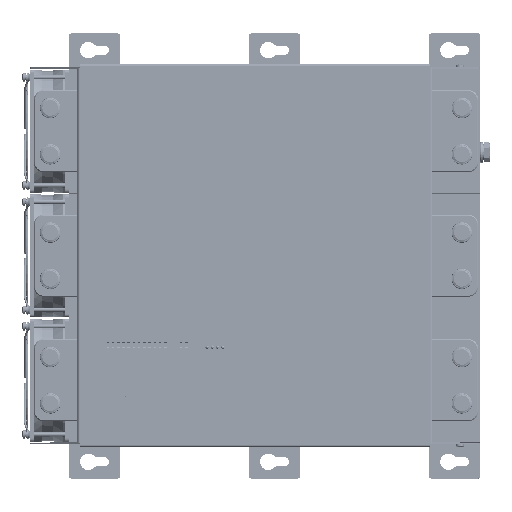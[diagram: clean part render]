
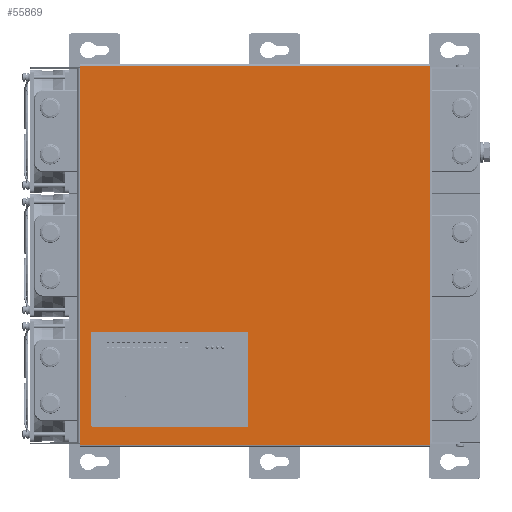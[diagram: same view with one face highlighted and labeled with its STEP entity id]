
A CAD part, top view. The second image highlights one B-rep face of the part: STEP entity #55869.
In plain terms, the highlighted planar face has unit normal (0, 0, 1) as drawn and (0, 1, 0) by its records, which use the part's own axes.
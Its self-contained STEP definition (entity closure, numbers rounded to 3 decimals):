
#55869=ADVANCED_FACE('',(#125734,#125736),#125738,.F.);
#125734=FACE_BOUND('',#125735,.T.);
#125735=EDGE_LOOP('',(#178931,#178932,#178933,#178934,#178935,#178936,#178937,#178938));
#125736=FACE_BOUND('',#125737,.T.);
#125737=EDGE_LOOP('',(#178939,#178940,#178941,#178942,#178943,#178944,#178945,#178946));
#125738=PLANE('',#125739);
#125739=AXIS2_PLACEMENT_3D('',#125740,#125741,#125742);
#125740=CARTESIAN_POINT('',(-35.5,192.5,154.));
#125741=DIRECTION('',(0.,-1.,0.));
#125742=DIRECTION('',(1.,0.,0.));
#178931=ORIENTED_EDGE('',*,*,#207038,.T.);
#178932=ORIENTED_EDGE('',*,*,#207039,.T.);
#178933=ORIENTED_EDGE('',*,*,#207040,.T.);
#178934=ORIENTED_EDGE('',*,*,#207041,.T.);
#178935=ORIENTED_EDGE('',*,*,#207042,.T.);
#178936=ORIENTED_EDGE('',*,*,#207043,.T.);
#178937=ORIENTED_EDGE('',*,*,#207044,.T.);
#178938=ORIENTED_EDGE('',*,*,#207045,.T.);
#178939=ORIENTED_EDGE('',*,*,#202251,.T.);
#178940=ORIENTED_EDGE('',*,*,#202266,.T.);
#178941=ORIENTED_EDGE('',*,*,#202264,.T.);
#178942=ORIENTED_EDGE('',*,*,#202262,.T.);
#178943=ORIENTED_EDGE('',*,*,#202260,.T.);
#178944=ORIENTED_EDGE('',*,*,#202258,.T.);
#178945=ORIENTED_EDGE('',*,*,#202256,.T.);
#178946=ORIENTED_EDGE('',*,*,#202254,.T.);
#202251=EDGE_CURVE('',#233352,#233353,#233354,.F.);
#202254=EDGE_CURVE('',#233357,#233352,#233358,.T.);
#202256=EDGE_CURVE('',#233360,#233357,#233361,.T.);
#202258=EDGE_CURVE('',#233363,#233360,#233364,.T.);
#202260=EDGE_CURVE('',#233366,#233363,#233367,.T.);
#202262=EDGE_CURVE('',#233369,#233366,#233370,.T.);
#202264=EDGE_CURVE('',#233372,#233369,#233373,.T.);
#202266=EDGE_CURVE('',#233353,#233372,#233375,.T.);
#207038=EDGE_CURVE('',#240517,#240518,#240519,.T.);
#207039=EDGE_CURVE('',#240518,#240520,#240521,.T.);
#207040=EDGE_CURVE('',#240520,#240522,#240523,.T.);
#207041=EDGE_CURVE('',#240522,#240524,#240525,.T.);
#207042=EDGE_CURVE('',#240524,#240526,#240527,.T.);
#207043=EDGE_CURVE('',#240526,#240528,#240529,.T.);
#207044=EDGE_CURVE('',#240528,#240530,#240531,.T.);
#207045=EDGE_CURVE('',#240530,#240517,#240532,.T.);
#233352=VERTEX_POINT('',#350372);
#233353=VERTEX_POINT('',#350373);
#233354=CIRCLE('',#350374,3.);
#233357=VERTEX_POINT('',#350384);
#233358=LINE('',#350385,#350386);
#233360=VERTEX_POINT('',#350391);
#233361=CIRCLE('',#350392,1.5);
#233363=VERTEX_POINT('',#350399);
#233364=LINE('',#350400,#350401);
#233366=VERTEX_POINT('',#350406);
#233367=CIRCLE('',#350407,1.5);
#233369=VERTEX_POINT('',#350414);
#233370=LINE('',#350415,#350416);
#233372=VERTEX_POINT('',#350421);
#233373=CIRCLE('',#350422,3.);
#233375=LINE('',#350429,#350430);
#240517=VERTEX_POINT('',#368098);
#240518=VERTEX_POINT('',#368099);
#240519=LINE('',#368100,#368101);
#240520=VERTEX_POINT('',#368103);
#240521=LINE('',#368104,#368105);
#240522=VERTEX_POINT('',#368107);
#240523=LINE('',#368108,#368109);
#240524=VERTEX_POINT('',#368111);
#240525=LINE('',#368112,#368113);
#240526=VERTEX_POINT('',#368115);
#240527=LINE('',#368116,#368117);
#240528=VERTEX_POINT('',#368119);
#240529=LINE('',#368120,#368121);
#240530=VERTEX_POINT('',#368123);
#240531=LINE('',#368124,#368125);
#240532=LINE('',#368127,#368128);
#350372=CARTESIAN_POINT('',(-25.3,192.5,164.1));
#350373=CARTESIAN_POINT('',(-28.3,192.5,167.1));
#350374=AXIS2_PLACEMENT_3D('',#350375,#350376,#350377);
#350375=CARTESIAN_POINT('',(-28.3,192.5,164.1));
#350376=DIRECTION('',(0.,1.,0.));
#350377=DIRECTION('',(0.,0.,1.));
#350384=CARTESIAN_POINT('',(-25.3,192.5,75.6));
#350385=CARTESIAN_POINT('',(-25.3,192.5,75.6));
#350386=VECTOR('',#350387,1.);
#350387=DIRECTION('',(0.,0.,1.));
#350391=CARTESIAN_POINT('',(-26.8,192.5,74.1));
#350392=AXIS2_PLACEMENT_3D('',#350393,#350394,#350395);
#350393=CARTESIAN_POINT('',(-26.8,192.5,75.6));
#350394=DIRECTION('',(0.,-1.,0.));
#350395=DIRECTION('',(0.,0.,-1.));
#350399=CARTESIAN_POINT('',(-176.8,192.5,74.1));
#350400=CARTESIAN_POINT('',(-176.8,192.5,74.1));
#350401=VECTOR('',#350402,1.);
#350402=DIRECTION('',(1.,0.,0.));
#350406=CARTESIAN_POINT('',(-178.3,192.5,75.6));
#350407=AXIS2_PLACEMENT_3D('',#350408,#350409,#350410);
#350408=CARTESIAN_POINT('',(-176.8,192.5,75.6));
#350409=DIRECTION('',(0.,-1.,0.));
#350410=DIRECTION('',(-1.,0.,0.));
#350414=CARTESIAN_POINT('',(-178.3,192.5,164.1));
#350415=CARTESIAN_POINT('',(-178.3,192.5,164.1));
#350416=VECTOR('',#350417,1.);
#350417=DIRECTION('',(0.,0.,-1.));
#350421=CARTESIAN_POINT('',(-175.3,192.5,167.1));
#350422=AXIS2_PLACEMENT_3D('',#350423,#350424,#350425);
#350423=CARTESIAN_POINT('',(-175.3,192.5,164.1));
#350424=DIRECTION('',(0.,-1.,0.));
#350425=DIRECTION('',(0.,0.,1.));
#350429=CARTESIAN_POINT('',(-28.3,192.5,167.1));
#350430=VECTOR('',#350431,1.);
#350431=DIRECTION('',(-1.,0.,0.));
#368098=CARTESIAN_POINT('',(151.5,192.5,-182.));
#368099=CARTESIAN_POINT('',(151.5,192.5,-184.));
#368100=CARTESIAN_POINT('',(151.5,192.5,-182.));
#368101=VECTOR('',#368102,1.);
#368102=DIRECTION('',(0.,0.,-1.));
#368103=CARTESIAN_POINT('',(-189.5,192.5,-184.));
#368104=CARTESIAN_POINT('',(151.5,192.5,-184.));
#368105=VECTOR('',#368106,1.);
#368106=DIRECTION('',(-1.,0.,0.));
#368107=CARTESIAN_POINT('',(-189.5,192.5,-182.));
#368108=CARTESIAN_POINT('',(-189.5,192.5,-184.));
#368109=VECTOR('',#368110,1.);
#368110=DIRECTION('',(0.,0.,1.));
#368111=CARTESIAN_POINT('',(-189.5,192.5,182.));
#368112=CARTESIAN_POINT('',(-189.5,192.5,-182.));
#368113=VECTOR('',#368114,1.);
#368114=DIRECTION('',(0.,0.,1.));
#368115=CARTESIAN_POINT('',(-189.5,192.5,184.));
#368116=CARTESIAN_POINT('',(-189.5,192.5,182.));
#368117=VECTOR('',#368118,1.);
#368118=DIRECTION('',(0.,0.,1.));
#368119=CARTESIAN_POINT('',(151.5,192.5,184.));
#368120=CARTESIAN_POINT('',(-189.5,192.5,184.));
#368121=VECTOR('',#368122,1.);
#368122=DIRECTION('',(1.,0.,0.));
#368123=CARTESIAN_POINT('',(151.5,192.5,182.));
#368124=CARTESIAN_POINT('',(151.5,192.5,184.));
#368125=VECTOR('',#368126,1.);
#368126=DIRECTION('',(0.,0.,-1.));
#368127=CARTESIAN_POINT('',(151.5,192.5,182.));
#368128=VECTOR('',#368129,1.);
#368129=DIRECTION('',(0.,0.,-1.));
